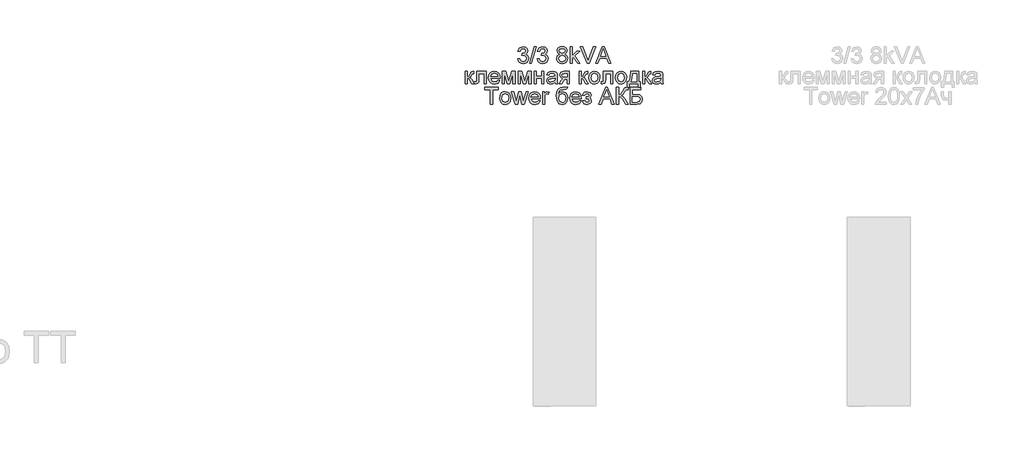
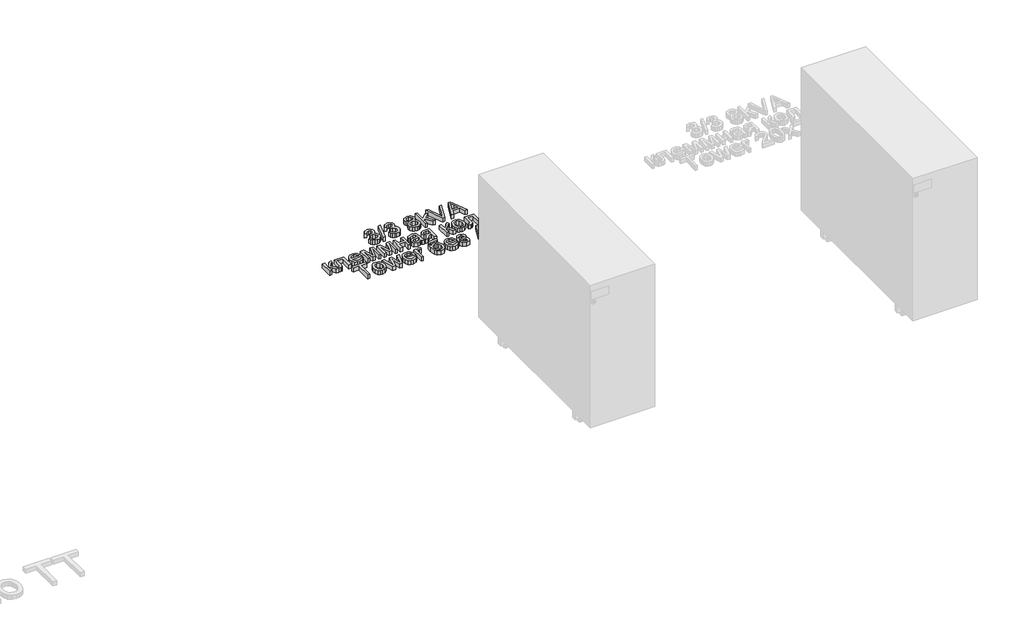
# One storey, part 19 of 74: 1 proxy.
"""IFC4 building model written with IfcOpenShell, lengths in millimetres."""

from ifc_helpers import new_model, si_unit, origin, origin_with_axes, place, context, project, spatial, polyline, outline, extrude, element, save

model = new_model("IFC4")

# Units and contexts
model_context = context("Model", 3, world=origin())
ifc_project = project(units=[si_unit("LENGTHUNIT", "METRE", prefix="MILLI")], contexts=[model_context])

# Site, building, storey
site = spatial("IfcSite", under=ifc_project)
building = spatial("IfcBuilding", under=site)
storey = spatial("IfcBuildingStorey", under=building, Name="Этаж 01", Elevation=0.0)

# Proxy
placement = place(None, origin())
element("IfcBuildingElementProxy", 1, Name="80 мм Arial", ObjectType="80 мм Arial", at=placement, inside=storey, context=model_context, shape_type="SweptSolid", body=[
    extrude(outline(polyline([(1129.0784863, -18752.4422861), (1139.1241174, -18751.1865822), (1144.6668727, -18761.7619633), (1155.0362399, -18764.9993249), (1167.240112, -18760.5455002), (1171.7724182, -18749.5188505), (1167.2793527, -18739.129863), (1155.8602956, -18735.0193948), (1148.8165817, -18736.1181357), (1149.9349429, -18726.0725047), (1151.5438135, -18726.1902269), (1162.9432503, -18723.3060321), (1168.0053065, -18714.4376235), (1164.3362968, -18706.5796641), (1154.8792769, -18703.4698349), (1145.3045349, -18706.6090946), (1140.3798212, -18716.0268737), (1130.3341902, -18714.7711698), (1138.5551265, -18699.0160102), (1154.5261102, -18693.4242039), (1166.6416906, -18696.1808663), (1175.1176918, -18703.7150896), (1178.0509375, -18713.8490123), (1175.2648446, -18723.1098284), (1167.0242879, -18729.7611348), (1177.972456, -18736.6282654), (1181.8180492, -18749.6954339), (1179.8952526, -18759.4860001), (1174.1268629, -18767.6676956), (1165.4203224, -18773.2006408), (1154.6830732, -18775.0449559), (1144.9709885, -18773.470421), (1137.0639782, -18768.7468161), (1131.5653686, -18761.5216138), (1129.0784863, -18752.4422861)])), origin_with_axes(), (0.0, 0.0, 1.0), 20.0),
    extrude(outline(polyline([(1185.5851608, -18773.789252), (1208.1878306, -18693.4242039), (1217.2524429, -18693.4242039), (1194.6497732, -18773.789252), (1185.5851608, -18773.789252)])), origin_with_axes(), (0.0, 0.0, 1.0), 20.0),
    extrude(outline(polyline([(1222.0005732, -18752.4422861), (1232.0462042, -18751.1865822), (1237.5889596, -18761.7619633), (1247.9583268, -18764.9993249), (1260.1621989, -18760.5455002), (1264.694505, -18749.5188505), (1260.2014396, -18739.129863), (1248.7823825, -18735.0193948), (1241.7386685, -18736.1181357), (1242.8570298, -18726.0725047), (1244.4659004, -18726.1902269), (1255.8653372, -18723.3060321), (1260.9273934, -18714.4376235), (1257.2583836, -18706.5796641), (1247.8013638, -18703.4698349), (1238.2266218, -18706.6090946), (1233.3019081, -18716.0268737), (1223.2562771, -18714.7711698), (1231.4772134, -18699.0160102), (1247.4481971, -18693.4242039), (1259.5637775, -18696.1808663), (1268.0397787, -18703.7150896), (1270.9730244, -18713.8490123), (1268.1869314, -18723.1098284), (1259.9463748, -18729.7611348), (1270.8945429, -18736.6282654), (1274.7401361, -18749.6954339), (1272.8173395, -18759.4860001), (1267.0489498, -18767.6676956), (1258.3424093, -18773.2006408), (1247.6051601, -18775.0449559), (1237.8930754, -18773.470421), (1229.9860651, -18768.7468161), (1224.4874555, -18761.5216138), (1222.0005732, -18752.4422861)])), origin_with_axes(), (0.0, 0.0, 1.0), 20.0),
    extrude(outline(polyline([(1329.5594584, -18729.5256904), (1320.4065544, -18723.2864117), (1317.4340679, -18713.5743271), (1319.0527486, -18705.7212727), (1323.908791, -18699.2318343), (1331.4577295, -18694.8761115), (1341.1550989, -18693.4242039), (1350.9113294, -18694.9104472), (1358.5583698, -18699.3691769), (1363.5027039, -18705.9616223), (1365.1508152, -18713.8490123), (1362.2175694, -18723.3158423), (1353.3197302, -18729.5256904), (1364.0030234, -18737.4032702), (1367.6622229, -18750.4017673), (1365.8473384, -18760.0059399), (1360.4026849, -18767.9423808), (1351.995355, -18773.2693121), (1341.2924415, -18775.0449559), (1330.589528, -18773.2619545), (1322.1821982, -18767.9129503), (1316.7375446, -18759.9004804), (1314.9226601, -18750.1270821), (1318.7290125, -18736.8244692), (1329.5594584, -18729.5256904)]), holes=[polyline([(1327.4796989, -18713.8686327), (1331.0407966, -18721.7560226), (1341.4101638, -18724.8168008), (1351.573517, -18721.775643), (1355.1051842, -18714.3199012), (1351.4557948, -18706.5992844), (1341.2924415, -18703.4698349), (1331.0996577, -18706.5306131), (1327.4796989, -18713.8686327)]), polyline([(1324.9682911, -18749.7739154), (1326.645833, -18757.3375692), (1332.5809959, -18762.9980468), (1341.370923, -18764.9993249), (1353.3393506, -18760.7907549), (1357.6165919, -18750.0878413), (1353.202008, -18739.1789139), (1341.0373767, -18734.8624318), (1329.2161019, -18739.1200528), (1324.9682911, -18749.7739154)])]), origin_with_axes(), (0.0, 0.0, 1.0), 20.0),
    extrude(outline(polyline([(1378.9635578, -18773.789252), (1378.9635578, -18693.4242039), (1389.0091889, -18693.4242039), (1389.0091889, -18736.608645), (1411.5333771, -18714.7711698), (1425.4246013, -18714.7711698), (1402.6257278, -18736.8833303), (1426.6803052, -18773.789252), (1414.9473221, -18773.789252), (1395.4250508, -18743.8681831), (1389.0091889, -18750.0878413), (1389.0091889, -18773.789252), (1378.9635578, -18773.789252)])), origin_with_axes(), (0.0, 0.0, 1.0), 20.0),
    extrude(outline(polyline([(1460.4665876, -18773.789252), (1428.4853795, -18693.4242039), (1439.2373439, -18693.4242039), (1460.643171, -18751.3239249), (1464.9792734, -18764.3714729), (1469.2565147, -18751.3239249), (1490.7212029, -18693.4242039), (1501.4731673, -18693.4242039), (1470.845765, -18773.789252), (1460.4665876, -18773.789252)])), origin_with_axes(), (0.0, 0.0, 1.0), 20.0),
    extrude(outline(polyline([(1501.453547, -18773.789252), (1533.5328569, -18693.4242039), (1542.0873396, -18693.4242039), (1574.1666496, -18773.789252), (1563.5520277, -18773.789252), (1554.3500728, -18748.6751745), (1521.2505034, -18748.6751745), (1512.0681688, -18773.789252), (1501.453547, -18773.789252)]), holes=[polyline([(1524.9391335, -18738.6295435), (1550.681063, -18738.6295435), (1543.4411453, -18718.8718278), (1537.8100983, -18703.4698349), (1532.8069031, -18717.145235), (1524.9391335, -18738.6295435)])]), origin_with_axes(), (0.0, 0.0, 1.0), 20.0),
    extrude(outline(polyline([(879.1934148, -18812.3510241), (889.2390459, -18812.3510241), (889.2390459, -18837.4651016), (895.9688338, -18835.6600273), (901.4821587, -18825.1435073), (906.0635158, -18816.0690848), (910.1053126, -18813.1162186), (917.4531423, -18812.3510241), (919.3759389, -18812.3510241), (919.3759389, -18822.4555162), (916.6683274, -18822.3966551), (911.7632341, -18823.4561553), (908.3100485, -18830.068221), (904.2584414, -18837.219847), (898.5783434, -18840.7220836), (904.9157239, -18844.6314429), (911.1353822, -18852.8670945), (921.8873467, -18871.3691063), (910.4682895, -18871.3691063), (899.9321492, -18853.259502), (894.6346485, -18845.5977463), (889.2390459, -18843.743621), (889.2390459, -18871.3691063), (879.1934148, -18871.3691063), (879.1934148, -18812.3510241)])), origin_with_axes(), (0.0, 0.0, 1.0), 20.0),
    extrude(outline(polyline([(933.1886815, -18812.3510241), (978.3940211, -18812.3510241), (978.3940211, -18871.3102452), (968.3483901, -18871.3102452), (968.3483901, -18822.3966551), (943.2343126, -18822.3966551), (943.2343126, -18850.5518905), (942.5574097, -18863.5405774), (938.839349, -18869.0244717), (930.0494219, -18871.3691063), (921.8873467, -18870.8589766), (921.8873467, -18861.3234753), (926.3804121, -18861.3234753), (930.9225285, -18860.7054335), (932.737413, -18858.7433962), (933.1886815, -18849.9828996), (933.1886815, -18812.3510241)])), origin_with_axes(), (0.0, 0.0, 1.0), 20.0),
    extrude(outline(polyline([(1034.7829733, -18853.789252), (1044.6324006, -18855.0449559), (1035.4206355, -18868.0140225), (1018.2626192, -18872.6248102), (1006.4756801, -18870.6357949), (997.4061626, -18864.6687489), (991.6230577, -18855.1111747), (989.695356, -18842.3505745), (991.642678, -18829.1607787), (997.4846441, -18819.2966362), (1006.4315342, -18813.1456492), (1017.6936284, -18811.0953202), (1028.6050084, -18813.1407441), (1037.3238116, -18819.2770158), (1043.0406979, -18829.121538), (1044.9463266, -18842.2917134), (1044.8874655, -18844.9993249), (999.740987, -18844.9993249), (1005.5191869, -18858.046873), (1018.4588229, -18862.5791792), (1028.3082502, -18860.4797992), (1034.7829733, -18853.789252)]), holes=[polyline([(999.740987, -18834.9536939), (1034.9006956, -18834.9536939), (1030.8785191, -18825.8498408), (1017.6543876, -18821.1409512), (1005.2837424, -18824.8982527), (999.740987, -18834.9536939)])]), origin_with_axes(), (0.0, 0.0, 1.0), 20.0),
    extrude(outline(polyline([(1054.9919576, -18812.3510241), (1072.2775063, -18812.3510241), (1085.5997396, -18859.5968825), (1099.9618527, -18812.3510241), (1116.5214476, -18812.3510241), (1116.5214476, -18871.3691063), (1106.4758166, -18871.3691063), (1106.4758166, -18823.8485627), (1092.035222, -18871.3691063), (1078.8503313, -18871.3691063), (1065.0375886, -18821.5725994), (1065.0375886, -18871.3691063), (1054.9919576, -18871.3691063), (1054.9919576, -18812.3510241)])), origin_with_axes(), (0.0, 0.0, 1.0), 20.0),
    extrude(outline(polyline([(1131.5898941, -18812.3510241), (1148.8754428, -18812.3510241), (1162.1976761, -18859.5968825), (1176.5597892, -18812.3510241), (1193.1193841, -18812.3510241), (1193.1193841, -18871.3691063), (1183.073753, -18871.3691063), (1183.073753, -18823.8485627), (1168.6331585, -18871.3691063), (1155.4482678, -18871.3691063), (1141.6355251, -18821.5725994), (1141.6355251, -18871.3691063), (1131.5898941, -18871.3691063), (1131.5898941, -18812.3510241)])), origin_with_axes(), (0.0, 0.0, 1.0), 20.0),
    extrude(outline(polyline([(1208.1878306, -18812.3510241), (1218.2334616, -18812.3510241), (1218.2334616, -18834.9536939), (1244.603243, -18834.9536939), (1244.603243, -18812.3510241), (1254.648874, -18812.3510241), (1254.648874, -18871.3691063), (1244.603243, -18871.3691063), (1244.603243, -18844.9993249), (1218.2334616, -18844.9993249), (1218.2334616, -18871.3691063), (1208.1878306, -18871.3691063), (1208.1878306, -18812.3510241)])), origin_with_axes(), (0.0, 0.0, 1.0), 20.0),
    extrude(outline(polyline([(1307.3884369, -18863.834883), (1297.6469216, -18870.6431525), (1286.885147, -18872.6248102), (1272.2973996, -18867.8570595), (1267.2059128, -18855.6728078), (1269.1287094, -18847.7265567), (1274.1809554, -18841.9581671), (1281.2148592, -18838.6619444), (1289.9066844, -18837.1511757), (1307.3295757, -18833.69799), (1307.3884369, -18831.4612675), (1304.6219643, -18824.0447664), (1293.5168331, -18821.1409512), (1283.3534798, -18823.073558), (1278.5072477, -18829.9308784), (1268.4616167, -18828.6751745), (1272.8075293, -18818.864988), (1281.5582157, -18813.1162186), (1294.8117777, -18811.0953202), (1306.9862192, -18812.8807742), (1313.86316, -18817.3640294), (1316.9435585, -18824.1821091), (1317.4340679, -18832.9720362), (1317.4340679, -18845.4702138), (1317.9441976, -18862.9225357), (1319.9454756, -18871.3691063), (1309.8998446, -18871.3691063), (1307.3884369, -18863.834883)]), holes=[polyline([(1307.3884369, -18843.743621), (1291.1820087, -18846.8240196), (1282.5392344, -18848.4525105), (1278.6249699, -18851.1012609), (1277.2515438, -18854.9664744), (1280.2436507, -18860.4013178), (1289.0237677, -18862.5791792), (1299.1871209, -18860.1756835), (1305.7403255, -18854.3582428), (1307.3295757, -18846.5885751), (1307.3884369, -18843.743621)])]), origin_with_axes(), (0.0, 0.0, 1.0), 20.0),
    extrude(outline(polyline([(1376.4521501, -18812.3510241), (1376.4521501, -18871.3691063), (1366.4065191, -18871.3691063), (1366.4065191, -18848.7664365), (1360.932435, -18848.7664365), (1353.4766932, -18850.0417608), (1346.47222, -18858.6158638), (1338.4671078, -18871.3691063), (1326.8518469, -18871.3691063), (1336.9367187, -18855.2411596), (1345.4912014, -18846.8828807), (1333.797459, -18840.7809447), (1329.9911066, -18829.4011283), (1335.1905055, -18817.079534), (1350.2393317, -18812.3510241), (1376.4521501, -18812.3510241)]), holes=[polyline([(1366.4065191, -18822.3966551), (1353.1627672, -18822.3966551), (1342.4402334, -18824.7216693), (1340.0367377, -18830.1663228), (1343.578215, -18836.6508561), (1356.1254436, -18838.7208055), (1366.4065191, -18838.7208055), (1366.4065191, -18822.3966551)])]), origin_with_axes(), (0.0, 0.0, 1.0), 20.0),
    extrude(outline(polyline([(1422.9131935, -18812.3510241), (1432.9588245, -18812.3510241), (1432.9588245, -18837.4651016), (1439.6886125, -18835.6600273), (1445.2019373, -18825.1435073), (1449.7832945, -18816.0690848), (1453.8250913, -18813.1162186), (1461.172921, -18812.3510241), (1463.0957176, -18812.3510241), (1463.0957176, -18822.4555162), (1460.3881061, -18822.3966551), (1455.4830128, -18823.4561553), (1452.0298272, -18830.068221), (1447.9782201, -18837.219847), (1442.2981221, -18840.7220836), (1448.6355026, -18844.6314429), (1454.8551609, -18852.8670945), (1465.6071253, -18871.3691063), (1454.1880682, -18871.3691063), (1443.6519279, -18853.259502), (1438.3544271, -18845.5977463), (1432.9588245, -18843.743621), (1432.9588245, -18871.3691063), (1422.9131935, -18871.3691063), (1422.9131935, -18812.3510241)])), origin_with_axes(), (0.0, 0.0, 1.0), 20.0),
    extrude(outline(polyline([(1469.374237, -18841.8600652), (1471.5471933, -18827.6303896), (1478.0660622, -18817.6289044), (1486.1202254, -18812.7287163), (1495.7636388, -18811.0953202), (1506.3169469, -18813.0843355), (1514.7463497, -18819.0513815), (1520.2719373, -18828.5255691), (1522.1137998, -18841.0360095), (1518.8568179, -18858.9101694), (1509.3703675, -18869.0244717), (1495.7636388, -18872.6248102), (1485.0827982, -18870.6431525), (1476.6632056, -18864.6981795), (1471.1964791, -18855.0253355), (1469.374237, -18841.8600652)]), holes=[polyline([(1479.419868, -18841.8404448), (1484.0698964, -18857.4092109), (1495.7636388, -18862.5791792), (1507.4181404, -18857.3797803), (1512.0681688, -18841.5265189), (1507.3887098, -18826.3109195), (1495.7636388, -18821.1409512), (1484.0698964, -18826.2912992), (1479.419868, -18841.8404448)])]), origin_with_axes(), (0.0, 0.0, 1.0), 20.0),
    extrude(outline(polyline([(1538.4379502, -18812.3510241), (1583.6432898, -18812.3510241), (1583.6432898, -18871.3102452), (1573.5976588, -18871.3102452), (1573.5976588, -18822.3966551), (1548.4835812, -18822.3966551), (1548.4835812, -18850.5518905), (1547.8066783, -18863.5405774), (1544.0886176, -18869.0244717), (1535.2986905, -18871.3691063), (1527.1366153, -18870.8589766), (1527.1366153, -18861.3234753), (1531.6296807, -18861.3234753), (1536.1717971, -18860.7054335), (1537.9866816, -18858.7433962), (1538.4379502, -18849.9828996), (1538.4379502, -18812.3510241)])), origin_with_axes(), (0.0, 0.0, 1.0), 20.0),
    extrude(outline(polyline([(1596.2003285, -18841.8600652), (1598.3732849, -18827.6303896), (1604.8921538, -18817.6289044), (1612.946317, -18812.7287163), (1622.5897303, -18811.0953202), (1633.1430385, -18813.0843355), (1641.5724413, -18819.0513815), (1647.0980288, -18828.5255691), (1648.9398914, -18841.0360095), (1645.6829094, -18858.9101694), (1636.1964591, -18869.0244717), (1622.5897303, -18872.6248102), (1611.9088897, -18870.6431525), (1603.4892971, -18864.6981795), (1598.0225707, -18855.0253355), (1596.2003285, -18841.8600652)]), holes=[polyline([(1606.2459596, -18841.8404448), (1610.895988, -18857.4092109), (1622.5897303, -18862.5791792), (1634.2442319, -18857.3797803), (1638.8942603, -18841.5265189), (1634.2148014, -18826.3109195), (1622.5897303, -18821.1409512), (1610.895988, -18826.2912992), (1606.2459596, -18841.8404448)])]), origin_with_axes(), (0.0, 0.0, 1.0), 20.0),
    extrude(outline(polyline([(1669.0311534, -18812.3510241), (1706.7022697, -18812.3510241), (1706.7022697, -18861.3234753), (1714.236493, -18861.3234753), (1714.236493, -18887.6932567), (1704.1908619, -18887.6932567), (1704.1908619, -18871.3691063), (1662.752634, -18871.3691063), (1662.752634, -18887.6932567), (1652.707003, -18887.6932567), (1652.707003, -18861.3234753), (1658.9855224, -18861.3234753), (1666.7453799, -18842.164181), (1669.0311534, -18812.3510241)]), holes=[polyline([(1677.8210805, -18822.3966551), (1675.4666358, -18845.2838203), (1670.2868573, -18861.3234753), (1696.6566387, -18861.3234753), (1696.6566387, -18822.3966551), (1677.8210805, -18822.3966551)])]), origin_with_axes(), (0.0, 0.0, 1.0), 20.0),
    extrude(outline(polyline([(1725.5378279, -18812.3510241), (1735.5834589, -18812.3510241), (1735.5834589, -18837.4651016), (1742.3132468, -18835.6600273), (1747.8265717, -18825.1435073), (1752.4079288, -18816.0690848), (1756.4497256, -18813.1162186), (1763.7975554, -18812.3510241), (1765.7203519, -18812.3510241), (1765.7203519, -18822.4555162), (1763.0127404, -18822.3966551), (1758.1076472, -18823.4561553), (1754.6544615, -18830.068221), (1750.6028545, -18837.219847), (1744.9227565, -18840.7220836), (1751.260137, -18844.6314429), (1757.4797952, -18852.8670945), (1768.2317597, -18871.3691063), (1756.8127025, -18871.3691063), (1746.2765622, -18853.259502), (1740.9790615, -18845.5977463), (1735.5834589, -18843.743621), (1735.5834589, -18871.3691063), (1725.5378279, -18871.3691063), (1725.5378279, -18812.3510241)])), origin_with_axes(), (0.0, 0.0, 1.0), 20.0),
    extrude(outline(polyline([(1812.1813954, -18863.834883), (1802.4398801, -18870.6431525), (1791.6781055, -18872.6248102), (1777.0903581, -18867.8570595), (1771.9988713, -18855.6728078), (1773.9216679, -18847.7265567), (1778.9739139, -18841.9581671), (1786.0078177, -18838.6619444), (1794.6996429, -18837.1511757), (1812.1225342, -18833.69799), (1812.1813954, -18831.4612675), (1809.4149228, -18824.0447664), (1798.3097916, -18821.1409512), (1788.1464383, -18823.073558), (1783.3002062, -18829.9308784), (1773.2545752, -18828.6751745), (1777.6004878, -18818.864988), (1786.3511742, -18813.1162186), (1799.6047362, -18811.0953202), (1811.7791777, -18812.8807742), (1818.6561185, -18817.3640294), (1821.736517, -18824.1821091), (1822.2270264, -18832.9720362), (1822.2270264, -18845.4702138), (1822.7371561, -18862.9225357), (1824.7384341, -18871.3691063), (1814.6928031, -18871.3691063), (1812.1813954, -18863.834883)]), holes=[polyline([(1812.1813954, -18843.743621), (1795.9749672, -18846.8240196), (1787.3321929, -18848.4525105), (1783.4179284, -18851.1012609), (1782.0445023, -18854.9664744), (1785.0366092, -18860.4013178), (1793.8167262, -18862.5791792), (1803.9800794, -18860.1756835), (1810.533284, -18854.3582428), (1812.1225342, -18846.5885751), (1812.1813954, -18843.743621)])]), origin_with_axes(), (0.0, 0.0, 1.0), 20.0),
    extrude(outline(polyline([(999.1131351, -18968.9489606), (999.1131351, -18898.6295435), (972.7433537, -18898.6295435), (972.7433537, -18888.5839125), (1035.5285475, -18888.5839125), (1035.5285475, -18898.6295435), (1009.1587661, -18898.6295435), (1009.1587661, -18968.9489606), (999.1131351, -18968.9489606)])), origin_with_axes(), (0.0, 0.0, 1.0), 20.0),
    extrude(outline(polyline([(1043.0627708, -18939.4399195), (1045.2357271, -18925.2102439), (1051.754596, -18915.2087587), (1059.8087592, -18910.3085705), (1069.4521726, -18908.6751745), (1080.0054807, -18910.6641898), (1088.4348835, -18916.6312358), (1093.9604711, -18926.1054234), (1095.8023336, -18938.6158638), (1092.5453517, -18956.4900237), (1083.0589013, -18966.604326), (1069.4521726, -18970.2046645), (1058.771332, -18968.2230068), (1050.3517394, -18962.2780337), (1044.8850129, -18952.6051898), (1043.0627708, -18939.4399195)]), holes=[polyline([(1053.1084018, -18939.4202991), (1057.7584302, -18954.9890651), (1069.4521726, -18960.1590334), (1081.1066742, -18954.9596346), (1085.7567026, -18939.1063731), (1081.0772436, -18923.8907738), (1069.4521726, -18918.7208055), (1057.7584302, -18923.8711534), (1053.1084018, -18939.4202991)])]), origin_with_axes(), (0.0, 0.0, 1.0), 20.0),
    extrude(outline(polyline([(1116.8942347, -18968.9489606), (1098.9415933, -18909.9308784), (1109.3796318, -18909.9308784), (1119.5626054, -18944.3646331), (1122.6037632, -18956.666607), (1125.0955506, -18944.8159017), (1133.1987647, -18909.9308784), (1145.1671923, -18909.9308784), (1153.2311656, -18944.7177998), (1155.4482678, -18955.4501439), (1158.6267682, -18944.1291886), (1168.8293622, -18909.9308784), (1179.3066414, -18909.9308784), (1161.2166574, -18968.9489606), (1149.0716465, -18968.9489606), (1141.3608399, -18934.3386225), (1139.1241174, -18923.5474173), (1129.1765882, -18968.9489606), (1116.8942347, -18968.9489606)])), origin_with_axes(), (0.0, 0.0, 1.0), 20.0),
    extrude(outline(polyline([(1227.5335184, -18951.3691063), (1237.3829457, -18952.6248102), (1228.1711806, -18965.5938768), (1211.0131643, -18970.2046645), (1199.2262252, -18968.2156491), (1190.1567077, -18962.2486032), (1184.3736028, -18952.6910289), (1182.4459011, -18939.9304288), (1184.3932231, -18926.740633), (1190.2351892, -18916.8764904), (1199.1820793, -18910.7255035), (1210.4441735, -18908.6751745), (1221.3555535, -18910.7205984), (1230.0743567, -18916.8568701), (1235.791243, -18926.7013923), (1237.6968717, -18939.8715677), (1237.6380106, -18942.5791792), (1192.4915321, -18942.5791792), (1198.269732, -18955.6267273), (1211.209368, -18960.1590334), (1221.0587953, -18958.0596535), (1227.5335184, -18951.3691063)]), holes=[polyline([(1192.4915321, -18932.5335481), (1227.6512407, -18932.5335481), (1223.6290642, -18923.429695), (1210.4049327, -18918.7208055), (1198.0342875, -18922.4781069), (1192.4915321, -18932.5335481)])]), origin_with_axes(), (0.0, 0.0, 1.0), 20.0),
    extrude(outline(polyline([(1247.7425027, -18968.9489606), (1247.7425027, -18909.9308784), (1256.5324298, -18909.9308784), (1256.5324298, -18918.6619444), (1262.7717085, -18910.6175914), (1269.0502279, -18908.6751745), (1279.1350996, -18911.7751934), (1275.7800158, -18920.7809447), (1268.7166815, -18918.7208055), (1263.0365835, -18920.7024632), (1259.4166247, -18926.1961676), (1257.7881337, -18937.9291507), (1257.7881337, -18968.9489606), (1247.7425027, -18968.9489606)])), origin_with_axes(), (0.0, 0.0, 1.0), 20.0),
    extrude(outline(polyline([(1358.2444439, -18887.3282086), (1367.034371, -18887.3282086), (1364.4444818, -18895.1665476), (1359.3235644, -18898.0016915), (1347.0215905, -18898.6295435), (1330.4521854, -18900.9447475), (1324.0951845, -18908.3612485), (1321.9467537, -18921.4872781), (1330.6483891, -18911.8732953), (1341.8614324, -18908.6751745), (1352.3141861, -18910.7083356), (1360.7950924, -18916.8078191), (1366.4163293, -18926.3752035), (1368.2900749, -18938.8120675), (1364.5720142, -18956.0976162), (1355.7526565, -18966.5258445), (1341.8614324, -18970.2046645), (1325.9983607, -18965.4663444), (1317.3163456, -18953.3409538), (1314.2948082, -18927.6088345), (1316.2004369, -18908.3342705), (1321.9173231, -18896.5792145), (1331.5877145, -18890.582738), (1345.3538588, -18888.5839125), (1356.5374714, -18888.3582782), (1358.2444439, -18887.3282086)]), holes=[polyline([(1358.2444439, -18938.4981416), (1353.888721, -18924.2635609), (1348.6402712, -18920.1064944), (1341.6063675, -18918.7208055), (1334.2732531, -18920.1849758), (1328.8335046, -18924.5774869), (1324.3404392, -18940.2247344), (1329.3043936, -18955.0283059), (1341.5475064, -18960.1590334), (1348.2821994, -18958.6752427), (1353.6140358, -18954.2238706), (1358.2444439, -18938.4981416)])]), origin_with_axes(), (0.0, 0.0, 1.0), 20.0),
    extrude(outline(polyline([(1422.1676194, -18951.3691063), (1432.0170466, -18952.6248102), (1422.8052815, -18965.5938768), (1405.6472652, -18970.2046645), (1393.8603261, -18968.2156491), (1384.7908086, -18962.2486032), (1379.0077037, -18952.6910289), (1377.080002, -18939.9304288), (1379.027324, -18926.740633), (1384.8692901, -18916.8764904), (1393.8161803, -18910.7255035), (1405.0782744, -18908.6751745), (1415.9896544, -18910.7205984), (1424.7084577, -18916.8568701), (1430.4253439, -18926.7013923), (1432.3309726, -18939.8715677), (1432.2721115, -18942.5791792), (1387.125633, -18942.5791792), (1392.9038329, -18955.6267273), (1405.843469, -18960.1590334), (1415.6928962, -18958.0596535), (1422.1676194, -18951.3691063)]), holes=[polyline([(1387.125633, -18932.5335481), (1422.2853416, -18932.5335481), (1418.2631651, -18923.429695), (1405.0390337, -18918.7208055), (1392.6683884, -18922.4781069), (1387.125633, -18932.5335481)])]), origin_with_axes(), (0.0, 0.0, 1.0), 20.0),
    extrude(outline(polyline([(1456.1893463, -18942.5791792), (1456.1893463, -18932.5335481), (1464.115977, -18932.1411407), (1468.1185331, -18930.051571), (1470.0020889, -18925.6860379), (1467.480871, -18920.6141715), (1460.9767173, -18918.7208055), (1454.2567395, -18920.6043613), (1449.9108269, -18926.2550288), (1438.609492, -18924.9993249), (1446.1633356, -18912.7562121), (1459.9564579, -18908.6751745), (1474.7109784, -18913.6489391), (1480.0477199, -18925.529075), (1478.1494488, -18931.7683536), (1472.4546355, -18936.5949654), (1479.0961318, -18942.8538644), (1481.3034238, -18951.8596156), (1479.9030197, -18959.2540437), (1475.7018073, -18965.1131776), (1460.0349394, -18970.2046645), (1444.5838956, -18965.4957749), (1437.3537881, -18951.3691063), (1448.655123, -18950.1134024), (1453.1874292, -18957.5299034), (1460.9963377, -18960.1590334), (1468.3343572, -18957.6378155), (1471.2577928, -18951.1925229), (1469.4429083, -18945.9146426), (1465.5776948, -18943.0893089), (1458.1513836, -18942.520318), (1456.1893463, -18942.5791792)])), origin_with_axes(), (0.0, 0.0, 1.0), 20.0),
    extrude(outline(polyline([(1517.1498454, -18968.9489606), (1549.2291554, -18888.5839125), (1557.7836381, -18888.5839125), (1589.862948, -18968.9489606), (1579.2483262, -18968.9489606), (1570.0463712, -18943.834883), (1536.9468018, -18943.834883), (1527.7644672, -18968.9489606), (1517.1498454, -18968.9489606)]), holes=[polyline([(1540.635432, -18933.789252), (1566.3773615, -18933.789252), (1559.1374438, -18914.0315363), (1553.5063967, -18898.6295435), (1548.5032016, -18912.3049435), (1540.635432, -18933.789252)])]), origin_with_axes(), (0.0, 0.0, 1.0), 20.0),
    extrude(outline(polyline([(1600.5952921, -18888.5839125), (1610.6409231, -18888.5839125), (1610.6409231, -18923.743621), (1621.8735867, -18921.0850605), (1629.7119257, -18907.6352947), (1635.2546811, -18896.4026311), (1641.5332005, -18890.8402554), (1650.5095212, -18888.5839125), (1657.1019666, -18888.7016347), (1657.1019666, -18898.7472657), (1654.8848644, -18898.6884046), (1652.6677622, -18898.6295435), (1644.819613, -18901.0428494), (1638.8550196, -18911.382786), (1631.7426344, -18923.9790655), (1624.8068325, -18928.1385846), (1632.5617849, -18932.6807009), (1640.2088253, -18942.147531), (1657.1019666, -18968.9489606), (1645.447465, -18968.9489606), (1631.1638334, -18946.30705), (1621.1083922, -18934.4857753), (1610.6409231, -18931.2778443), (1610.6409231, -18968.9489606), (1600.5952921, -18968.9489606), (1600.5952921, -18888.5839125)])), origin_with_axes(), (0.0, 0.0, 1.0), 20.0),
    extrude(outline(polyline([(1665.8918937, -18888.5839125), (1716.1200488, -18888.5839125), (1716.1200488, -18898.6295435), (1675.9375247, -18898.6295435), (1675.9375247, -18922.4879171), (1694.7534625, -18922.4879171), (1711.3326777, -18924.5284359), (1721.2017254, -18932.2392426), (1724.9099759, -18945.4241333), (1722.2710357, -18956.8726209), (1714.3934559, -18965.5742564), (1696.5585368, -18968.9489606), (1665.8918937, -18968.9489606), (1665.8918937, -18888.5839125)]), holes=[polyline([(1675.9375247, -18958.9033296), (1697.461074, -18958.9033296), (1710.5086221, -18955.5874865), (1714.8643449, -18945.6399574), (1712.3725575, -18937.7721878), (1705.4367556, -18933.5734279), (1690.2996378, -18932.5335481), (1675.9375247, -18932.5335481), (1675.9375247, -18958.9033296)])]), origin_with_axes(), (0.0, 0.0, 1.0), 20.0),
])

save(model, "model.ifc")
